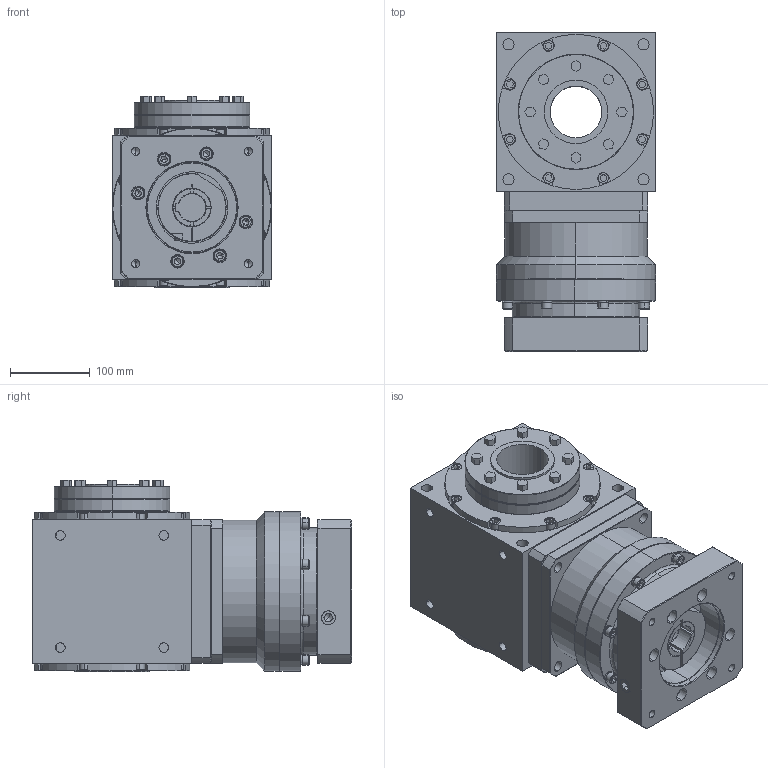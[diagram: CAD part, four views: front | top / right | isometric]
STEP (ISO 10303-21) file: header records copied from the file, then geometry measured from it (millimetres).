
FILE_DESCRIPTION (( 'STEP AP203' ), '1' );
FILE_NAME ('AAW200AS-L1-RFHP 35-114.3-200-M12.STEP', '2024-12-24T09:07:05', ( '' ), ( '' ), 'SwSTEP 2.0', 'SolidWorks 2021', '' );
FILE_SCHEMA (( 'CONFIG_CONTROL_DESIGN' ));
Length unit declared in the file: millimetre
Products named in the file (3): AAW200AS-L1-RFHP 35-114.3-200-M12; AAW200AS-RFHP; KS180L1-114.3-35-82-M12-200俋倛芞
Assembly tree (2 placements, depth 2):
  AAW200AS-L1-RFHP 35-114.3-200-M12
    AAW200AS-RFHP
    KS180L1-114.3-35-82-M12-200俋倛芞
Bounding box: 200 x 401 x 241 mm (x, y, z)
Volume: 12724237.8 mm3; surface area: 777571.4 mm2
Topology: 36 solids, 36 shells, 1247 faces, 2960 edges, 1847 vertices
Faces by surface type: plane 648, cylinder 416, cone 139, bspline 32, torus 12
Entity records: 36824 total; most frequent: CARTESIAN_POINT 7530, DIRECTION 6293, ORIENTED_EDGE 5816, EDGE_CURVE 2908, AXIS2_PLACEMENT_3D 2336, VERTEX_POINT 1847, VECTOR 1621, LINE 1621
